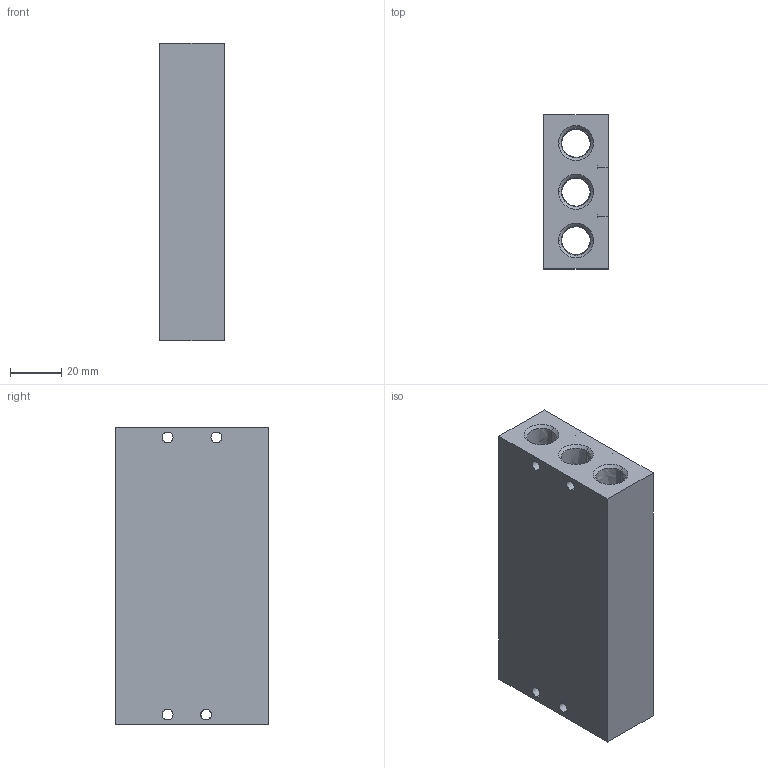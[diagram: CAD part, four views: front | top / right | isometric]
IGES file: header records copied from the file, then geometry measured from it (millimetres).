
Global section: file name: No Iges File Name specified; native system: AutoDesk Inventor R11.0; preprocessor: AutoDesk Inventor Iges Exporter R11.0; author: No Author specified; organization: No Organization specified; date: 20061201.115617; units: millimetre
Bounding box: 25 x 60 x 116 mm (x, y, z)
Volume: 127432.3 mm3; surface area: 38580.4 mm2
Topology: 1 solids, 1 shells, 190 faces, 499 edges, 299 vertices
Faces by surface type: bspline 178, revolution 6, plane 6
